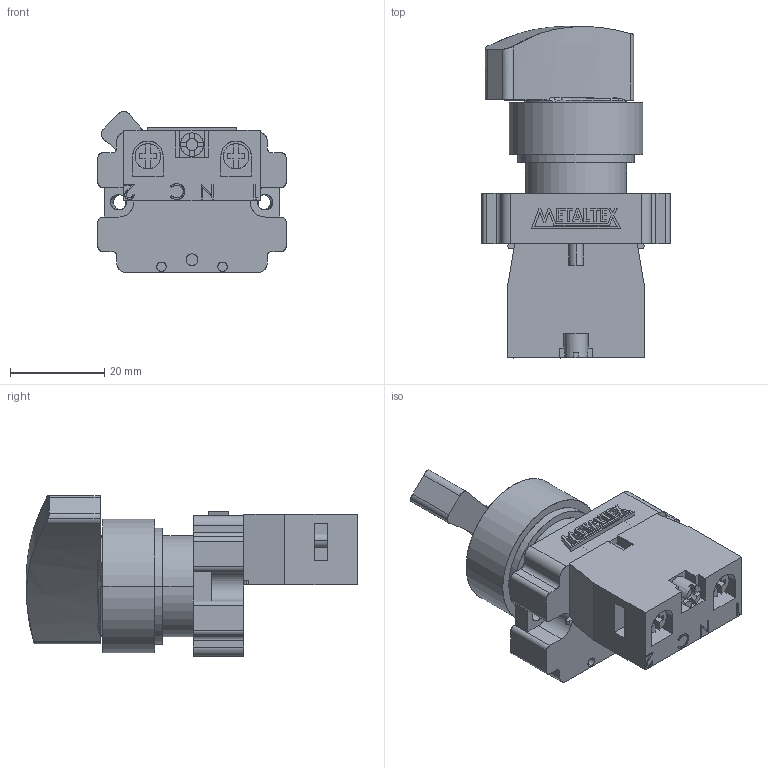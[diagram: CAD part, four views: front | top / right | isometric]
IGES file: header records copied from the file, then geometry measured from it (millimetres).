
Start section: SolidWorks IGES file using analytic representation for surfaces
Global section: file name: D:\X - Arquivos\PROEX\Empresas\P11 - METALTEX\01 - Produtos\IGES\Segunda remessa\M20SL2-B-1A.IGS; native system: SolidWorks 2012; preprocessor: SolidWorks 2012; author: Usuario; date: 180117.122033; units: millimetre
Bounding box: 40 x 70.6 x 34.23 mm (x, y, z)
Surface area: 12686.4 mm2 (no closed solid volume)
Topology: 0 solids, 0 shells, 374 faces, 4265 edges, 4265 vertices
Faces by surface type: bspline 296, revolution 78
